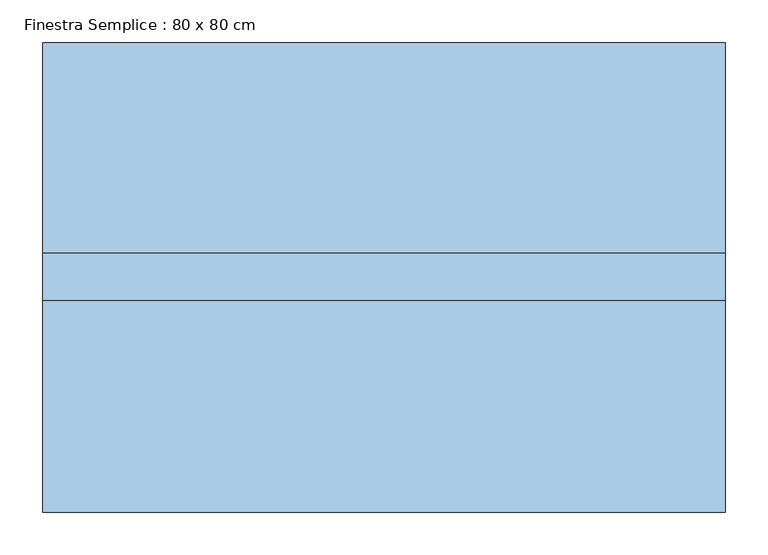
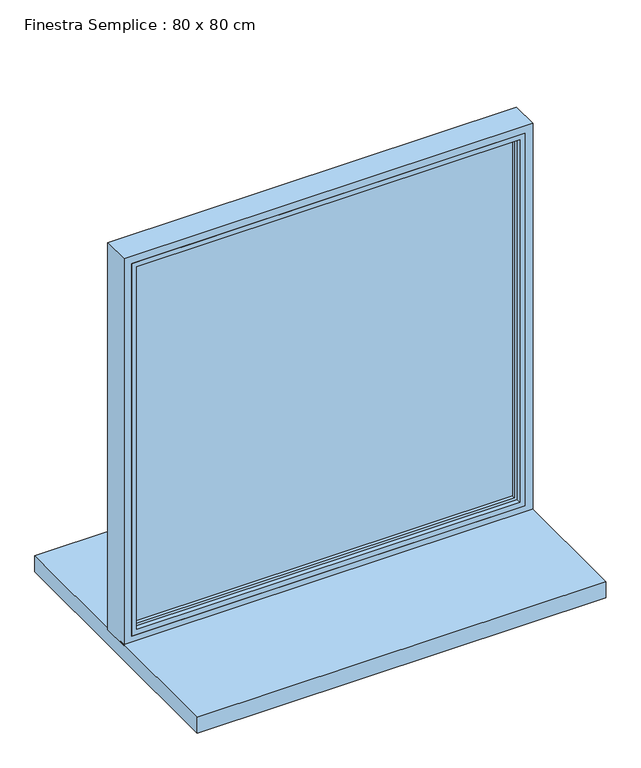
"""IFC4 building model written with IfcOpenShell, lengths in millimetres: window geometry, Finestra Semplice : 80 x 80 cm."""

import ifcopenshell
import ifcopenshell.guid

model = None  # the IFC model being written
_history = None  # IfcOwnerHistory: only IFC2X3 demands one
_inside = {}  # id of a spatial element -> (the spatial element, [elements in it])
_under = {}  # id of a project, library or spatial element -> (it, [spatial elements below it])
_declared = {}  # id of a project -> (the project, [libraries it declares])
_typed = {}  # id of a type object -> (the type object, [elements of that type])
_made_of = {}  # id of a material, layer set ... -> (it, [elements and type objects made of it])


def new_model(schema):
    """Start an empty IFC model of exactly this schema.

    Asked for "IFC4X3", IfcOpenShell would pick the latest addendum, in which some entities
    have other attributes; the version numbers below select the first issue.
    IFC2X3 requires an IfcOwnerHistory on every rooted entity: one is made here for all.
    """
    global model, _history
    if schema == "IFC4X3":
        model = ifcopenshell.file(schema_version=(4, 3, 0, 0))
    else:
        model = ifcopenshell.file(schema=schema)
    _inside.clear()
    _under.clear()
    _declared.clear()
    _typed.clear()
    _made_of.clear()
    _history = None
    if model.schema == "IFC2X3":
        org = make("IfcOrganization", Name="unknown")
        user = make(
            "IfcPersonAndOrganization",
            ThePerson=make("IfcPerson", FamilyName="unknown"),
            TheOrganization=org,
        )
        app = make(
            "IfcApplication",
            ApplicationDeveloper=org,
            Version="unknown",
            ApplicationFullName="unknown",
            ApplicationIdentifier="unknown",
        )
        _history = make(
            "IfcOwnerHistory",
            OwningUser=user,
            OwningApplication=app,
            ChangeAction="ADDED",
            CreationDate=0,
        )
    return model


def make(cls, **values):
    """One entity of the class cls with the attributes given. An attribute that is None is left unset."""
    return model.create_entity(
        cls, **{name: value for name, value in values.items() if value is not None}
    )


def rooted(cls, **values):
    """An entity with a GlobalId (a new one), such as an element, a storey or a relation."""
    return make(cls, GlobalId=ifcopenshell.guid.new(), OwnerHistory=_history, **values)


def si_unit(unit_type, name, prefix=None):
    """IfcSIUnit, for example si_unit("LENGTHUNIT", "METRE", prefix="MILLI")."""
    return make("IfcSIUnit", UnitType=unit_type, Prefix=prefix, Name=name)


def assignment(units):
    """IfcUnitAssignment: the units of a project."""
    return None if units is None else make("IfcUnitAssignment", Units=units)


def point(xyz):
    """IfcCartesianPoint."""
    return None if xyz is None else make("IfcCartesianPoint", Coordinates=xyz)


def direction(xyz):
    """IfcDirection."""
    return None if xyz is None else make("IfcDirection", DirectionRatios=xyz)


def frame(location, z_axis=None, x_axis=None):
    """IfcAxis2Placement3D, a coordinate frame: its origin and axes. An axis left out is left unset."""
    return make(
        "IfcAxis2Placement3D",
        Location=point(location),
        Axis=direction(z_axis),
        RefDirection=direction(x_axis),
    )


def origin():
    """The frame at (0, 0, 0) with its axes left unset."""
    return frame((0.0, 0.0, 0.0))


def place(relative_to, where):
    """IfcLocalPlacement: puts the frame where relative to a parent placement (None: the world)."""
    return make(
        "IfcLocalPlacement", PlacementRelTo=relative_to, RelativePlacement=where
    )


def context(
    kind, dimensions, precision=None, world=None, true_north=None, identifier=None
):
    """IfcGeometricRepresentationContext, for example the 3D "Model" context."""
    return make(
        "IfcGeometricRepresentationContext",
        ContextIdentifier=identifier,
        ContextType=kind,
        CoordinateSpaceDimension=dimensions,
        Precision=precision,
        WorldCoordinateSystem=world,
        TrueNorth=true_north,
    )


def project(units=None, contexts=None):
    """IfcProject with its units and contexts."""
    return rooted(
        "IfcProject",
        Name="project",
        RepresentationContexts=contexts,
        UnitsInContext=assignment(units),
    )


def spatial(cls, under=None, at=None, **own):
    """A site, building, storey or space (cls), placed at a placement, below another one or the project."""
    s = rooted(cls, ObjectPlacement=at, **own)
    if under is not None:
        _under.setdefault(under.id(), (under, []))[1].append(s)
    return s


def polyline(points):
    """IfcPolyline through the points."""
    return make("IfcPolyline", Points=[point(p) for p in points])


def ellipse_curve(where, semi_axis1, semi_axis2):
    """IfcEllipse in the frame where."""
    return make(
        "IfcEllipse", Position=where, SemiAxis1=semi_axis1, SemiAxis2=semi_axis2
    )


def outline(outer, holes=None, kind="AREA"):
    """IfcArbitraryClosedProfileDef: a profile drawn as a closed curve; with holes, ...WithVoids."""
    if holes is None:
        return make("IfcArbitraryClosedProfileDef", ProfileType=kind, OuterCurve=outer)
    return make(
        "IfcArbitraryProfileDefWithVoids",
        ProfileType=kind,
        OuterCurve=outer,
        InnerCurves=holes,
    )


def extrude(swept, where, along, depth):
    """IfcExtrudedAreaSolid: the profile swept, set in the frame where, extruded along a direction by depth."""
    return make(
        "IfcExtrudedAreaSolid",
        SweptArea=swept,
        Position=where,
        ExtrudedDirection=direction(along),
        Depth=depth,
    )


def faces_of(points, faces, orient=None, outer=None):
    """IfcFace entities. A face is a list of loops; a loop is a list of indices into points, from 0.

    orient and outer hold one flag for each loop. By default every Orientation is true, the
    first loop of a face is its IfcFaceOuterBound and the others are IfcFaceBound.
    """
    made = []
    for i, loops in enumerate(faces):
        bounds = []
        for j, loop in enumerate(loops):
            is_outer = j == 0 if outer is None else outer[i][j]
            bounds.append(
                make(
                    "IfcFaceOuterBound" if is_outer else "IfcFaceBound",
                    Bound=make("IfcPolyLoop", Polygon=[points[k] for k in loop]),
                    Orientation=True if orient is None else orient[i][j],
                )
            )
        made.append(make("IfcFace", Bounds=bounds))
    return made


def faceted_brep(points, faces, orient=None, outer=None, voids=None):
    """IfcFacetedBrep: a solid bounded by flat faces; with voids (closed shells), ...WithVoids."""
    shared = [point(p) for p in points]
    hull = make("IfcClosedShell", CfsFaces=faces_of(shared, faces, orient, outer))
    if voids is None:
        return make("IfcFacetedBrep", Outer=hull)
    return make(
        "IfcFacetedBrepWithVoids",
        Outer=hull,
        Voids=[
            make(cls, CfsFaces=faces_of(shared, fs, o, b)) for cls, fs, o, b in voids
        ],
    )


def shape(context_of_items, identifier, shape_type, items):
    """IfcShapeRepresentation: the items that make up one representation, for example the "Body"."""
    return make(
        "IfcShapeRepresentation",
        ContextOfItems=context_of_items,
        RepresentationIdentifier=identifier,
        RepresentationType=shape_type,
        Items=items,
    )


def source(mapping_origin, context_of_items, identifier, shape_type, items):
    """IfcRepresentationMap: a shape defined once, which mapped items show again and again."""
    return make(
        "IfcRepresentationMap",
        MappingOrigin=mapping_origin,
        MappedRepresentation=shape(context_of_items, identifier, shape_type, items),
    )


def transform(
    local_origin,
    x_axis=None,
    y_axis=None,
    z_axis=None,
    scale=None,
    scale2=None,
    scale3=None,
    uniform=True,
):
    """IfcCartesianTransformationOperator3D, or its non-uniform kind. x_axis, y_axis, z_axis: its Axis1, 2, 3."""
    if uniform:
        return make(
            "IfcCartesianTransformationOperator3D",
            Axis1=direction(x_axis),
            Axis2=direction(y_axis),
            LocalOrigin=point(local_origin),
            Scale=scale,
            Axis3=direction(z_axis),
        )
    return make(
        "IfcCartesianTransformationOperator3DnonUniform",
        Axis1=direction(x_axis),
        Axis2=direction(y_axis),
        LocalOrigin=point(local_origin),
        Scale=scale,
        Axis3=direction(z_axis),
        Scale2=scale2,
        Scale3=scale3,
    )


def mapped(mapping_source, mapping_target):
    """IfcMappedItem: shows the shape of a source again, moved by a transform."""
    return make(
        "IfcMappedItem", MappingSource=mapping_source, MappingTarget=mapping_target
    )


def made_of(thing, what):
    """Note that an element or type object is made of a material, layer set ...; save() writes the relation."""
    if what is not None:
        _made_of.setdefault(what.id(), (what, []))[1].append(thing)
    return thing


def element(
    cls,
    number,
    at=None,
    inside=None,
    cuts=None,
    type_object=None,
    material=None,
    context=None,
    identifier="Body",
    shape_type=None,
    held_by="IfcProductDefinitionShape",
    body=None,
    shapes=None,
    **own,
):
    """One element of the class cls, such as IfcWall. Its Tag is "e" and its number.

    at: its placement. inside: the storey or other place that contains it. cuts: it is an
    opening in that element (IfcRelVoidsElement). A single representation is given by context,
    identifier, shape_type and body (its items); several are given by shapes. held_by: the class
    of the entity that holds the representations. save() writes the other relations.
    """
    e = rooted(cls, Tag="e%d" % number, ObjectPlacement=at, **own)
    if body is not None:
        shapes = [shape(context, identifier, shape_type, body)]
    if shapes is not None:
        e.Representation = make(held_by, Representations=shapes)
    if inside is not None:
        _inside.setdefault(inside.id(), (inside, []))[1].append(e)
    if cuts is not None:
        rooted(
            "IfcRelVoidsElement", RelatingBuildingElement=cuts, RelatedOpeningElement=e
        )
    if type_object is not None:
        _typed.setdefault(type_object.id(), (type_object, []))[1].append(e)
    return made_of(e, material)


def aggregate(whole, parts):
    """IfcRelAggregates: a whole, such as a stair, and the parts it consists of."""
    return rooted("IfcRelAggregates", RelatingObject=whole, RelatedObjects=parts)


def save(model, path):
    """Write the relations noted so far, then the file.

    IfcRelAggregates (storeys below a building ...), IfcRelContainedInSpatialStructure (elements
    in a storey), IfcRelDefinesByType, IfcRelAssociatesMaterial and IfcRelDeclares: one each for
    every whole, place, type object, material and project.
    """
    for whole, parts in _under.values():
        aggregate(whole, parts)
    for where, things in _inside.values():
        rooted(
            "IfcRelContainedInSpatialStructure",
            RelatedElements=things,
            RelatingStructure=where,
        )
    for kind, things in _typed.values():
        rooted("IfcRelDefinesByType", RelatedObjects=things, RelatingType=kind)
    for what, things in _made_of.values():
        rooted("IfcRelAssociatesMaterial", RelatedObjects=things, RelatingMaterial=what)
    for by, libraries in _declared.values():
        rooted("IfcRelDeclares", RelatingContext=by, RelatedDefinitions=libraries)
    model.write(path)


def plane_surface(at):
    """IfcPlane: the flat surface through the origin of the frame at, square to its z axis."""
    return make("IfcPlane", Position=at)


def cylinder_surface(at, radius):
    """IfcCylindricalSurface: all points at the distance radius from the z axis of the frame at."""
    return make("IfcCylindricalSurface", Position=at, Radius=radius)


def advanced_brep(points, edges, surfaces, faces):
    """IfcAdvancedBrep: a solid bounded by faces that lie on surfaces and meet in shared edges.

    An edge is (start, end): straight between two places in points (the first is 0);
    or (start, end, curve); or (start, end, curve, False) where it runs against its curve.
    A face is (place in surfaces, loops), or (place, loops, False) where it looks against
    its surface's normal. A loop lists edges by number (the first is 1), with a minus sign
    where the edge is run from its end to its start. The first loop is the outer one.
    """
    corners = [point(p) for p in points]
    vertices = [make("IfcVertexPoint", VertexGeometry=c) for c in corners]
    made = []
    for start, end, *more in edges:
        made.append(
            make(
                "IfcEdgeCurve",
                EdgeStart=vertices[start],
                EdgeEnd=vertices[end],
                EdgeGeometry=more[0] if more else make("IfcPolyline", Points=[corners[start], corners[end]]),
                SameSense=more[1] if len(more) > 1 else True,
            )
        )
    hull = []
    for where, loops, *sense in faces:
        bounds = []
        for j, loop in enumerate(loops):
            ring = [make("IfcOrientedEdge", EdgeElement=made[abs(k) - 1], Orientation=k > 0) for k in loop]
            bounds.append(
                make(
                    "IfcFaceOuterBound" if j == 0 else "IfcFaceBound",
                    Bound=make("IfcEdgeLoop", EdgeList=ring),
                    Orientation=True,
                )
            )
        hull.append(make("IfcAdvancedFace", Bounds=bounds, FaceSurface=surfaces[where], SameSense=sense[0] if sense else True))
    return make("IfcAdvancedBrep", Outer=make("IfcClosedShell", CfsFaces=hull))


def finestra_semplice_80_x_80_cm_494b2022(model_context):
    return source(origin(), model_context, "Body", "SolidModel", [
        extrude(outline(polyline([(370.0, -3.0), (-370.0, -3.0), (-370.0, 9.8627388), (370.0, 9.8627388), (370.0, -3.0)])), frame((0.0, 0.0, 930.0), z_axis=(0.0, 0.0, 1.0), x_axis=(1.0, 0.0, 0.0)), (0.0, 0.0, 1.0), 740.0),
        faceted_brep([(-385.0, -20.0, 1685.0), (-385.0, 20.0, 1685.0), (-385.0, 20.0, 915.0), (-385.0, -20.0, 915.0), (385.0, 20.0, 1685.0), (385.0, 20.0, 915.0), (-370.0, 20.0, 1670.0), (-370.0, 20.0, 930.0), (370.0, 20.0, 930.0), (370.0, 20.0, 1670.0), (385.0, -20.0, 915.0), (385.0, -20.0, 1685.0), (375.0, -20.0, 1675.0), (375.0, -20.0, 925.0), (-375.0, -20.0, 925.0), (-375.0, -20.0, 1675.0), (-375.0, -10.0, 1675.0), (-375.0, -10.0, 925.0), (375.0, -10.0, 925.0), (375.0, -10.0, 1675.0), (370.0, -10.0, 1670.0), (370.0, -10.0, 930.0), (-370.0, -10.0, 930.0), (-370.0, -10.0, 1670.0)], [[[0, 1, 2, 3]], [[4, 5, 2, 1], [6, 7, 8, 9]], [[3, 2, 5, 10]], [[0, 3, 10, 11], [12, 13, 14, 15]], [[16, 15, 14, 17]], [[17, 14, 13, 18]], [[16, 17, 18, 19], [20, 21, 22, 23]], [[6, 23, 22, 7]], [[7, 22, 21, 8]], [[10, 5, 4, 11]], [[18, 13, 12, 19]], [[8, 21, 20, 9]], [[11, 4, 1, 0]], [[19, 12, 15, 16]], [[9, 20, 23, 6]]]),
        advanced_brep(
        [(-400.0, 35.0, 1700.0), (-400.0, 35.0, 900.0), (-400.0, -20.0, 900.0), (-400.0, -20.0, 1700.0), (400.0, 35.0, 1700.0), (400.0, 35.0, 900.0), (-380.0, 35.0, 920.0), (380.0, 35.0, 920.0), (380.0, 35.0, 1680.0), (-380.0, 35.0, 1680.0), (400.0, -20.0, 900.0), (400.0, -20.0, 1700.0), (-385.0, -20.0, 1685.0), (385.0, -20.0, 1685.0), (385.0, -20.0, 915.0), (-385.0, -20.0, 915.0), (-385.0, 20.0, 1685.0), (-385.0, 20.0, 915.0), (385.0, 20.0, 915.0), (385.0, 20.0, 1685.0), (-375.0, 20.0, 1675.0), (375.0, 20.0, 1675.0), (375.0, 20.0, 925.0), (-375.0, 20.0, 925.0), (-375.0, 30.0, 1675.0), (-375.0, 30.0, 925.0), (375.0, 30.0, 925.0), (375.0, 30.0, 1675.0)],
        [
            (0, 1),
            (1, 2),
            (2, 3),
            (3, 0),
            (0, 4),
            (4, 5),
            (5, 1),
            (6, 7),
            (7, 8),
            (8, 9),
            (9, 6),
            (5, 10),
            (10, 2),
            (10, 11),
            (11, 3),
            (12, 13),
            (13, 14),
            (14, 15),
            (15, 12),
            (16, 12),
            (15, 17),
            (17, 16),
            (14, 18),
            (18, 17),
            (18, 19),
            (19, 16),
            (20, 21),
            (21, 22),
            (22, 23),
            (23, 20),
            (24, 20),
            (23, 25),
            (25, 24),
            (22, 26),
            (26, 25),
            (9, 24, ellipse_curve(frame((-380.0, 30.0, 1680.0), z_axis=(-0.7071067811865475, 0.0, -0.7071067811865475), x_axis=(-0.7071067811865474, 0.0, 0.7071067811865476)), 7.0710678, 5.0)),
            (25, 6, ellipse_curve(frame((-380.0, 30.0, 920.0), z_axis=(-0.7071067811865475, 0.0, 0.7071067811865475), x_axis=(0.7071067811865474, 0.0, 0.7071067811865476)), 7.0710678, 5.0)),
            (26, 7, ellipse_curve(frame((380.0, 30.0, 920.0), z_axis=(-0.7071067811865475, 0.0, -0.7071067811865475), x_axis=(-0.7071067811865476, 0.0, 0.7071067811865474)), 7.0710678, 5.0)),
            (4, 11),
            (13, 19),
            (21, 27),
            (27, 26),
            (27, 8, ellipse_curve(frame((380.0, 30.0, 1680.0), z_axis=(0.7071067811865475, 0.0, -0.7071067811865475), x_axis=(-0.7071067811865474, 0.0, -0.7071067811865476)), 7.0710678, 5.0)),
            (24, 27),
        ],
        [
            plane_surface(frame((-400.0, 0.0, 1700.0), z_axis=(-1.0, 0.0, 0.0), x_axis=(0.0, 0.0, -1.0))),
            plane_surface(frame((380.0, 35.0, 1680.0), z_axis=(0.0, 1.0, 0.0), x_axis=(-1.0, 0.0, 0.0))),
            plane_surface(frame((-400.0, 0.0, 900.0), z_axis=(0.0, 0.0, -1.0), x_axis=(1.0, 0.0, 0.0))),
            plane_surface(frame((400.0, -20.0, 1700.0), z_axis=(0.0, -1.0, 0.0), x_axis=(-1.0, 0.0, 0.0))),
            plane_surface(frame((-385.0, -20.0, 1685.0), z_axis=(1.0, 0.0, 0.0), x_axis=(0.0, 0.0, -1.0))),
            plane_surface(frame((-385.0, -20.0, 915.0), z_axis=(0.0, 0.0, 1.0), x_axis=(1.0, 0.0, 0.0))),
            plane_surface(frame((385.0, 20.0, 1685.0), z_axis=(0.0, -1.0, 0.0), x_axis=(-1.0, 0.0, 0.0))),
            plane_surface(frame((-375.0, 20.0, 1675.0), z_axis=(1.0, 0.0, 0.0), x_axis=(0.0, 0.0, -1.0))),
            plane_surface(frame((-375.0, 20.0, 925.0), z_axis=(0.0, 0.0, 1.0), x_axis=(1.0, 0.0, 0.0))),
            cylinder_surface(frame((-380.0, 30.0, 1700.0), z_axis=(0.0, 0.0, 1.0), x_axis=(1.0, 0.0, 0.0)), 5.0),
            cylinder_surface(frame((-400.0, 30.0, 920.0), z_axis=(-1.0, 0.0, 0.0), x_axis=(0.0, 0.0, 1.0)), 5.0),
            plane_surface(frame((400.0, 0.0, 900.0), z_axis=(1.0, 0.0, 0.0), x_axis=(0.0, 0.0, 1.0))),
            plane_surface(frame((385.0, -20.0, 915.0), z_axis=(-1.0, 0.0, 0.0), x_axis=(0.0, 0.0, 1.0))),
            plane_surface(frame((375.0, 20.0, 925.0), z_axis=(-1.0, 0.0, 0.0), x_axis=(0.0, 0.0, 1.0))),
            cylinder_surface(frame((380.0, 30.0, 900.0), z_axis=(0.0, 0.0, -1.0), x_axis=(-1.0, 0.0, 0.0)), 5.0),
            plane_surface(frame((400.0, 0.0, 1700.0), z_axis=(0.0, 0.0, 1.0), x_axis=(-1.0, 0.0, 0.0))),
            plane_surface(frame((385.0, -20.0, 1685.0), z_axis=(0.0, 0.0, -1.0), x_axis=(-1.0, 0.0, 0.0))),
            plane_surface(frame((375.0, 20.0, 1675.0), z_axis=(0.0, 0.0, -1.0), x_axis=(-1.0, 0.0, 0.0))),
            cylinder_surface(frame((400.0, 30.0, 1680.0), z_axis=(1.0, 0.0, 0.0), x_axis=(0.0, 0.0, -1.0)), 5.0),
        ],
        [
            (0, [[1, 2, 3, 4]]),
            (1, [[5, 6, 7, -1], [8, 9, 10, 11]]),
            (2, [[-2, -7, 12, 13]]),
            (3, [[-13, 14, 15, -3], [16, 17, 18, 19]]),
            (4, [[20, -19, 21, 22]]),
            (5, [[-21, -18, 23, 24]]),
            (6, [[-24, 25, 26, -22], [27, 28, 29, 30]]),
            (7, [[31, -30, 32, 33]]),
            (8, [[-32, -29, 34, 35]]),
            (9, [[36, -33, 37, -11]]),
            (10, [[-37, -35, 38, -8]]),
            (11, [[-12, -6, 39, -14]]),
            (12, [[-23, -17, 40, -25]]),
            (13, [[-34, -28, 41, 42]]),
            (14, [[-38, -42, 43, -9]]),
            (15, [[-39, -5, -4, -15]]),
            (16, [[-40, -16, -20, -26]]),
            (17, [[-41, -27, -31, 44]]),
            (18, [[-43, -44, -36, -10]]),
        ],
    ),
        extrude(outline(polyline([(400.0, -268.1372612), (-400.0, -268.1372612), (-400.0, 281.8627388), (400.0, 281.8627388), (400.0, -268.1372612)])), frame((0.0, 0.0, 870.0), z_axis=(0.0, 0.0, 1.0), x_axis=(1.0, 0.0, 0.0)), (0.0, 0.0, 1.0), 33.0),
    ])


if __name__ == "__main__":
    model = new_model("IFC4")
    model_context = context("Model", 3, world=origin())
    ifc_project = project(units=[si_unit("LENGTHUNIT", "METRE", prefix="MILLI")], contexts=[model_context])
    site = spatial("IfcSite", under=ifc_project)
    building = spatial("IfcBuilding", under=site)
    placement = place(None, origin())
    finestra_semplice_80_x_80_cm_shape = finestra_semplice_80_x_80_cm_494b2022(model_context)
    element("IfcWindow", 1, ObjectType="Finestra Semplice : 80 x 80 cm", at=placement, inside=building, context=model_context, shape_type="MappedRepresentation", body=[
        mapped(finestra_semplice_80_x_80_cm_shape, transform((0.0, 0.0, 0.0), x_axis=(1.0, 0.0, 0.0), y_axis=(0.0, 1.0, 0.0), z_axis=(0.0, 0.0, 1.0))),
    ])
    save(model, "model.ifc")
